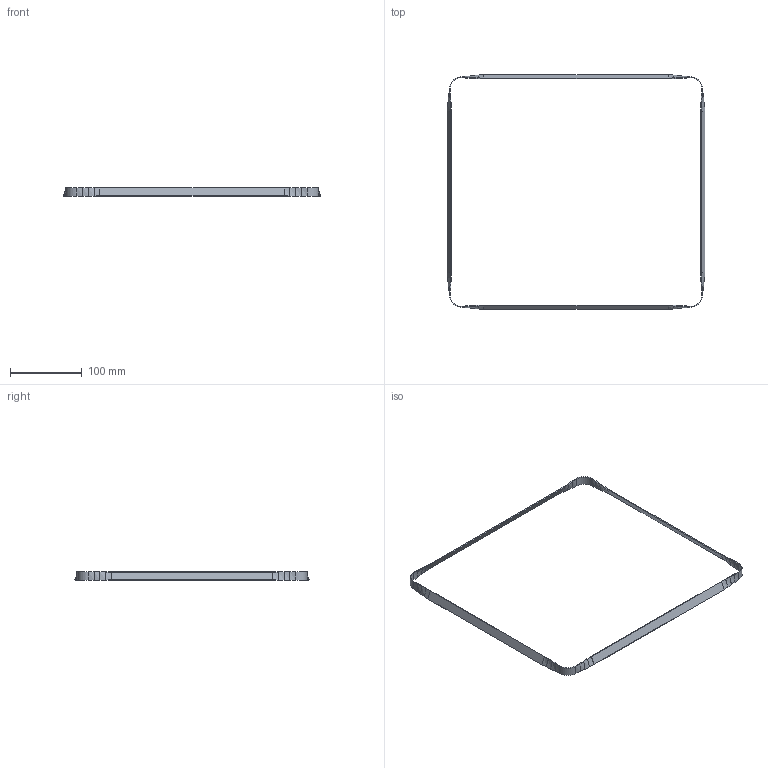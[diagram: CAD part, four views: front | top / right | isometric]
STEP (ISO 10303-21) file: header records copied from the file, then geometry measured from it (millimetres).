
FILE_DESCRIPTION(('Open CASCADE Model'),'2;1');
FILE_NAME('COMPOUND','2026-10-21T18:57:52',('Author'),('Open CASCADE'), 'Open CASCADE STEP processor 8.0','build123d','Unknown');
FILE_SCHEMA(('AUTOMOTIVE_DESIGN { 1 0 10303 214 1 1 1 1 }'));
Length unit declared in the file: millimetre
Products named in the file (42): COMPOUND; SOLID
Assembly tree (41 placements, depth 3):
  COMPOUND
    COMPOUND
      SOLID
      SOLID
      SOLID
      SOLID
      SOLID
      SOLID
      SOLID
      SOLID
      SOLID
      SOLID
      SOLID
      SOLID
      SOLID
      SOLID
      SOLID
      SOLID
      SOLID
      SOLID
      SOLID
      SOLID
      SOLID
      SOLID
      SOLID
      SOLID
      SOLID
      SOLID
      SOLID
      SOLID
      SOLID
      SOLID
      SOLID
      SOLID
      SOLID
      SOLID
      SOLID
      SOLID
      COMPOUND
      COMPOUND
      COMPOUND
      COMPOUND
Bounding box: 358.76 x 326.76 x 12.28 mm (x, y, z)
Volume: 17610.4 mm3; surface area: 35995.8 mm2
Topology: 40 solids, 40 shells, 240 faces, 480 edges, 320 vertices
Faces by surface type: bspline 128, plane 104, cylinder 8
Entity records: 12822 total; most frequent: CARTESIAN_POINT 2614, DIRECTION 1576, LINE 1220, VECTOR 1220, ORIENTED_EDGE 960, PCURVE 960, DEFINITIONAL_REPRESENTATION 960, EDGE_CURVE 480
